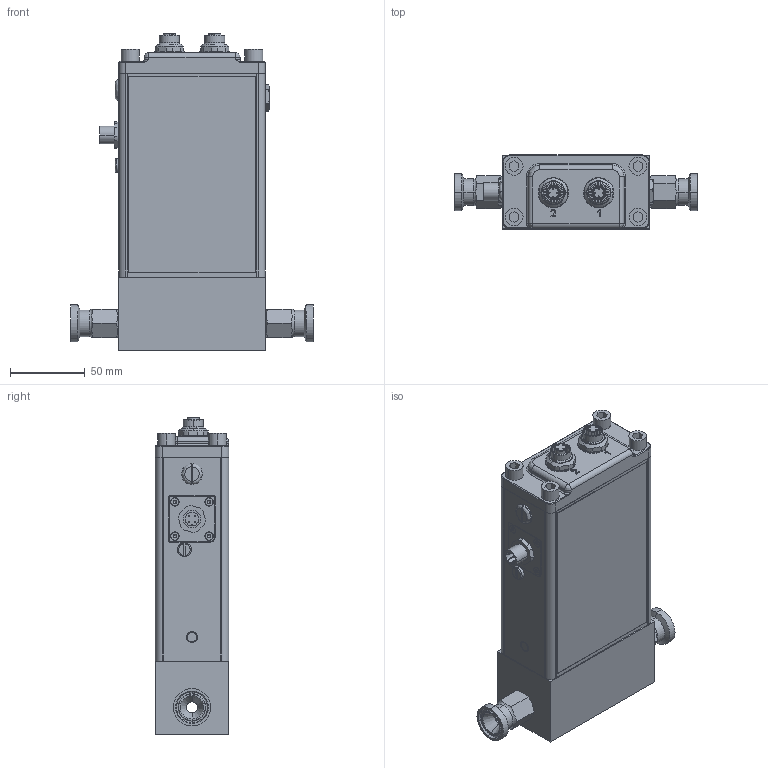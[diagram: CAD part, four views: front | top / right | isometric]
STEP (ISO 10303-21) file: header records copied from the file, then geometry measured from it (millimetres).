
FILE_DESCRIPTION (( 'STEP AP203' ), '1' );
FILE_NAME ('SLAMF60-7-5A-0-A-REVB.STEP', '2024-05-01T18:49:01', ( '' ), ( '' ), 'SwSTEP 2.0', 'SolidWorks 2023', '' );
FILE_SCHEMA (( 'CONFIG_CONTROL_DESIGN' ));
Length unit declared in the file: inch
Products named in the file (1): SLAMF60-7-5A-0-A-REVB
Bounding box: 162.61 x 49.5 x 212.9 mm (x, y, z)
Volume: 181505.7 mm3; surface area: 185184 mm2
Topology: 56 solids, 58 shells, 1362 faces, 3392 edges, 2193 vertices
Faces by surface type: cylinder 558, plane 465, bspline 183, cone 156
Entity records: 61051 total; most frequent: CARTESIAN_POINT 29643, ORIENTED_EDGE 6772, DIRECTION 6106, EDGE_CURVE 3386, AXIS2_PLACEMENT_3D 2321, VERTEX_POINT 2193, EDGE_LOOP 1571, LINE 1464
